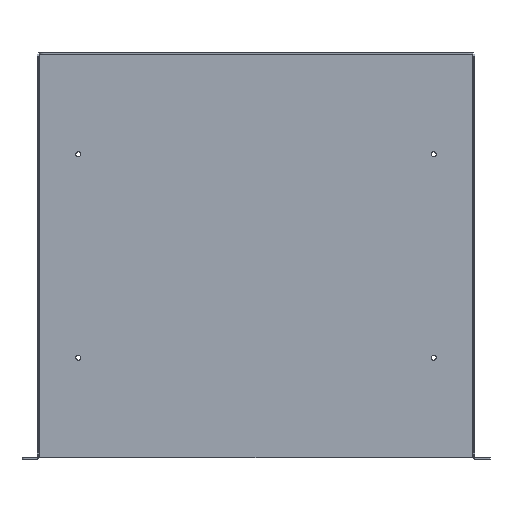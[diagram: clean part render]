
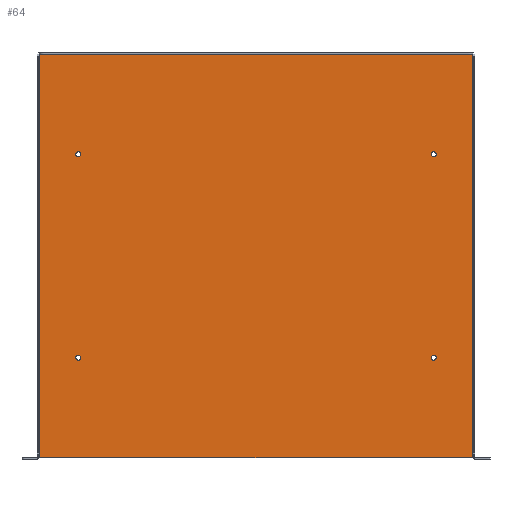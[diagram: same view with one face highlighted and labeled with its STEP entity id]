
A CAD part, top view. The second image highlights one B-rep face of the part: STEP entity #64.
In plain terms, the highlighted planar face has unit normal (0, 0, 1).
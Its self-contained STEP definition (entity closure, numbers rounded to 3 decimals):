
#64 = ADVANCED_FACE( '', ( #187, #188, #189, #190, #191 ), #192, .T. );
#187 = FACE_BOUND( '', #450, .T. );
#188 = FACE_BOUND( '', #451, .T. );
#189 = FACE_BOUND( '', #452, .T. );
#190 = FACE_BOUND( '', #453, .T. );
#191 = FACE_OUTER_BOUND( '', #454, .T. );
#192 = PLANE( '', #455 );
#450 = EDGE_LOOP( '', ( #900 ) );
#451 = EDGE_LOOP( '', ( #901 ) );
#452 = EDGE_LOOP( '', ( #902 ) );
#453 = EDGE_LOOP( '', ( #903 ) );
#454 = EDGE_LOOP( '', ( #904, #905, #906, #907 ) );
#455 = AXIS2_PLACEMENT_3D( '', #908, #909, #910 );
#900 = ORIENTED_EDGE( '', *, *, #1658, .F. );
#901 = ORIENTED_EDGE( '', *, *, #1659, .F. );
#902 = ORIENTED_EDGE( '', *, *, #1660, .F. );
#903 = ORIENTED_EDGE( '', *, *, #1661, .F. );
#904 = ORIENTED_EDGE( '', *, *, #1662, .F. );
#905 = ORIENTED_EDGE( '', *, *, #1663, .T. );
#906 = ORIENTED_EDGE( '', *, *, #1664, .F. );
#907 = ORIENTED_EDGE( '', *, *, #1665, .T. );
#908 = CARTESIAN_POINT( '', ( -273.05, -253.086, 1.829 ) );
#909 = DIRECTION( '', ( 0., 0., 1. ) );
#910 = DIRECTION( '', ( 1., 0., 0. ) );
#1658 = EDGE_CURVE( '', #2003, #2003, #2004, .T. );
#1659 = EDGE_CURVE( '', #2005, #2005, #2006, .T. );
#1660 = EDGE_CURVE( '', #2007, #2007, #2008, .T. );
#1661 = EDGE_CURVE( '', #2009, #2009, #2010, .T. );
#1662 = EDGE_CURVE( '', #1928, #2011, #2012, .T. );
#1663 = EDGE_CURVE( '', #1928, #2013, #2014, .T. );
#1664 = EDGE_CURVE( '', #2015, #2013, #2016, .T. );
#1665 = EDGE_CURVE( '', #2015, #2011, #2017, .T. );
#1928 = VERTEX_POINT( '', #2439 );
#2003 = VERTEX_POINT( '', #2568 );
#2004 = CIRCLE( '', #2569, 3.175 );
#2005 = VERTEX_POINT( '', #2570 );
#2006 = CIRCLE( '', #2571, 3.175 );
#2007 = VERTEX_POINT( '', #2572 );
#2008 = CIRCLE( '', #2573, 3.175 );
#2009 = VERTEX_POINT( '', #2574 );
#2010 = CIRCLE( '', #2575, 3.175 );
#2011 = VERTEX_POINT( '', #2576 );
#2012 = LINE( '', #2577, #2578 );
#2013 = VERTEX_POINT( '', #2579 );
#2014 = LINE( '', #2580, #2581 );
#2015 = VERTEX_POINT( '', #2582 );
#2016 = LINE( '', #2583, #2584 );
#2017 = LINE( '', #2585, #2586 );
#2439 = CARTESIAN_POINT( '', ( 270.307, 250.342, 1.829 ) );
#2568 = CARTESIAN_POINT( '', ( -218.669, 126.086, 1.829 ) );
#2569 = AXIS2_PLACEMENT_3D( '', #3184, #3185, #3186 );
#2570 = CARTESIAN_POINT( '', ( 225.019, -127.914, 1.829 ) );
#2571 = AXIS2_PLACEMENT_3D( '', #3187, #3188, #3189 );
#2572 = CARTESIAN_POINT( '', ( 225.019, 126.086, 1.829 ) );
#2573 = AXIS2_PLACEMENT_3D( '', #3190, #3191, #3192 );
#2574 = CARTESIAN_POINT( '', ( -218.669, -127.914, 1.829 ) );
#2575 = AXIS2_PLACEMENT_3D( '', #3193, #3194, #3195 );
#2576 = CARTESIAN_POINT( '', ( 270.307, -253.086, 1.829 ) );
#2577 = CARTESIAN_POINT( '', ( 270.307, 253.086, 1.829 ) );
#2578 = VECTOR( '', #3196, 1000. );
#2579 = CARTESIAN_POINT( '', ( -270.307, 250.342, 1.829 ) );
#2580 = CARTESIAN_POINT( '', ( -270.305, 250.342, 1.829 ) );
#2581 = VECTOR( '', #3197, 1000. );
#2582 = CARTESIAN_POINT( '', ( -270.307, -253.086, 1.829 ) );
#2583 = CARTESIAN_POINT( '', ( -270.307, -253.086, 1.829 ) );
#2584 = VECTOR( '', #3198, 1000. );
#2585 = CARTESIAN_POINT( '', ( -273.05, -253.086, 1.829 ) );
#2586 = VECTOR( '', #3199, 1000. );
#3184 = CARTESIAN_POINT( '', ( -221.844, 126.086, 1.829 ) );
#3185 = DIRECTION( '', ( 0., 0., 1. ) );
#3186 = DIRECTION( '', ( 1., 0., 0. ) );
#3187 = CARTESIAN_POINT( '', ( 221.844, -127.914, 1.829 ) );
#3188 = DIRECTION( '', ( 0., 0., 1. ) );
#3189 = DIRECTION( '', ( 1., 0., 0. ) );
#3190 = CARTESIAN_POINT( '', ( 221.844, 126.086, 1.829 ) );
#3191 = DIRECTION( '', ( 0., 0., 1. ) );
#3192 = DIRECTION( '', ( 1., 0., 0. ) );
#3193 = CARTESIAN_POINT( '', ( -221.844, -127.914, 1.829 ) );
#3194 = DIRECTION( '', ( 0., 0., 1. ) );
#3195 = DIRECTION( '', ( 1., 0., 0. ) );
#3196 = DIRECTION( '', ( 0., -1., 0. ) );
#3197 = DIRECTION( '', ( -1., 0., 0. ) );
#3198 = DIRECTION( '', ( 0., 1., 0. ) );
#3199 = DIRECTION( '', ( 1., 0., 0. ) );
